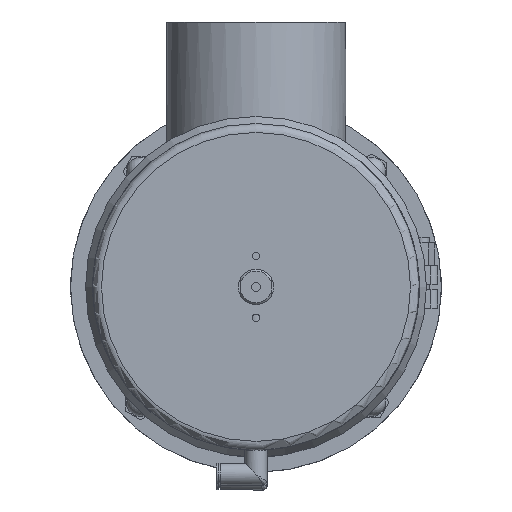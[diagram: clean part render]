
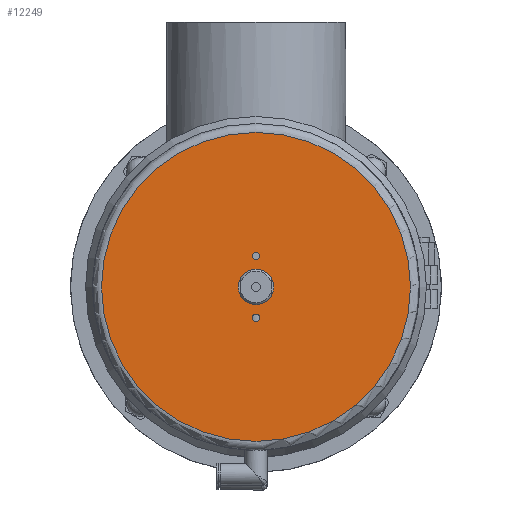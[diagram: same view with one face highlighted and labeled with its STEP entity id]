
A CAD part, front view. The second image highlights one B-rep face of the part: STEP entity #12249.
In plain terms, the highlighted planar face has unit normal (0, -1, 0) as drawn and (0, 1, 0) by its records, which use the part's own axes.
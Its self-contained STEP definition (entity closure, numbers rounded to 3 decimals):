
#152 = FACE_BOUND ( 'NONE', #24035, .T. ) ;
#406 = EDGE_LOOP ( 'NONE', ( #20308 ) ) ;
#1998 = FACE_BOUND ( 'NONE', #15473, .T. ) ;
#2011 = ORIENTED_EDGE ( 'NONE', *, *, #20621, .T. ) ;
#2390 = DIRECTION ( 'NONE',  ( 0., 1., 0. ) ) ;
#2427 = CARTESIAN_POINT ( 'NONE',  ( 0., 298., -10. ) ) ;
#2976 = DIRECTION ( 'NONE',  ( 0., 1., 0. ) ) ;
#3244 = DIRECTION ( 'NONE',  ( 0., 1., 0. ) ) ;
#3687 = VERTEX_POINT ( 'NONE', #9295 ) ;
#3880 = FACE_OUTER_BOUND ( 'NONE', #406, .T. ) ;
#3881 = DIRECTION ( 'NONE',  ( 0., 0., -1. ) ) ;
#5417 = VERTEX_POINT ( 'NONE', #14987 ) ;
#5742 = CIRCLE ( 'NONE', #14053, 2.1 ) ;
#6286 = CARTESIAN_POINT ( 'NONE',  ( 0., 298., -15.4 ) ) ;
#6873 = CARTESIAN_POINT ( 'NONE',  ( 0., 298., 0. ) ) ;
#7744 = CARTESIAN_POINT ( 'NONE',  ( 0., 298., 0. ) ) ;
#8124 = EDGE_LOOP ( 'NONE', ( #9237 ) ) ;
#8378 = DIRECTION ( 'NONE',  ( 0., 0., -1. ) ) ;
#9197 = CIRCLE ( 'NONE', #12375, 87.5 ) ;
#9237 = ORIENTED_EDGE ( 'NONE', *, *, #16017, .F. ) ;
#9295 = CARTESIAN_POINT ( 'NONE',  ( 0., 298., 19.6 ) ) ;
#9365 = DIRECTION ( 'NONE',  ( 0., 0., -1. ) ) ;
#9978 = DIRECTION ( 'NONE',  ( 0., 0., 1. ) ) ;
#10154 = EDGE_CURVE ( 'NONE', #5417, #5417, #9197, .T. ) ;
#11087 = DIRECTION ( 'NONE',  ( 0., -1., 0. ) ) ;
#11759 = VERTEX_POINT ( 'NONE', #6286 ) ;
#12249 = ADVANCED_FACE ( 'NONE', ( #152, #22655, #3880, #1998 ), #13185, .F. ) ;
#12375 = AXIS2_PLACEMENT_3D ( 'NONE', #6873, #3244, #8378 ) ;
#12571 = CIRCLE ( 'NONE', #17372, 2.1 ) ;
#13185 = PLANE ( 'NONE',  #23510 ) ;
#13485 = ORIENTED_EDGE ( 'NONE', *, *, #24138, .F. ) ;
#13820 = AXIS2_PLACEMENT_3D ( 'NONE', #7744, #21047, #3881 ) ;
#14053 = AXIS2_PLACEMENT_3D ( 'NONE', #17823, #2390, #9978 ) ;
#14402 = CARTESIAN_POINT ( 'NONE',  ( 0., 298., -17.5 ) ) ;
#14987 = CARTESIAN_POINT ( 'NONE',  ( 0., 298., -87.5 ) ) ;
#15473 = EDGE_LOOP ( 'NONE', ( #2011 ) ) ;
#16017 = EDGE_CURVE ( 'NONE', #3687, #3687, #5742, .T. ) ;
#17372 = AXIS2_PLACEMENT_3D ( 'NONE', #14402, #2976, #18643 ) ;
#17823 = CARTESIAN_POINT ( 'NONE',  ( 0., 298., 17.5 ) ) ;
#18643 = DIRECTION ( 'NONE',  ( 0., 0., 1. ) ) ;
#19605 = VERTEX_POINT ( 'NONE', #2427 ) ;
#20308 = ORIENTED_EDGE ( 'NONE', *, *, #10154, .T. ) ;
#20621 = EDGE_CURVE ( 'NONE', #19605, #19605, #24564, .T. ) ;
#21047 = DIRECTION ( 'NONE',  ( 0., -1., 0. ) ) ;
#22655 = FACE_BOUND ( 'NONE', #8124, .T. ) ;
#22788 = CARTESIAN_POINT ( 'NONE',  ( -92.5, 298., 0. ) ) ;
#23510 = AXIS2_PLACEMENT_3D ( 'NONE', #22788, #11087, #9365 ) ;
#24035 = EDGE_LOOP ( 'NONE', ( #13485 ) ) ;
#24138 = EDGE_CURVE ( 'NONE', #11759, #11759, #12571, .T. ) ;
#24564 = CIRCLE ( 'NONE', #13820, 10. ) ;
